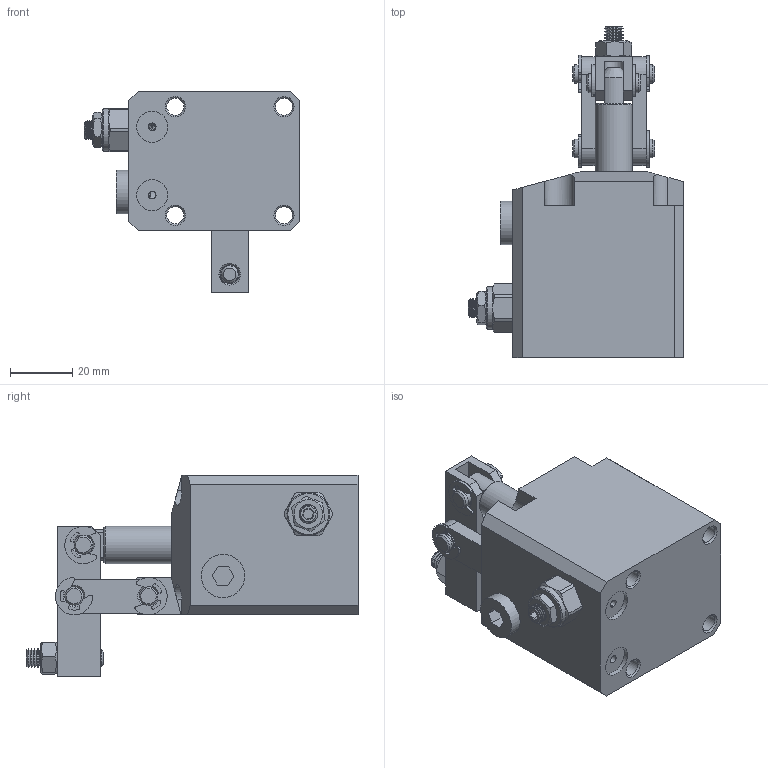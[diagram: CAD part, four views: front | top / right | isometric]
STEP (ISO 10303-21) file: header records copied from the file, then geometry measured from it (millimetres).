
FILE_DESCRIPTION(/* description */ ('STEP AP203'),/* implementation_level */ '2;1');
FILE_NAME(/* name */ 'D:\Vault_2016\Projekty\Clamptek\Hydraulic\CBLU\CBLU-25\STEP\CBLU-25CL.stp',/* time_stamp */ '2021-05-06T11:54:25+02:00',/* author */ ('user'),/* organization */ (''),/* preprocessor_version */ 'ST-DEVELOPER v18.1',/* originating_system */ 'Autodesk Inventor 2021',/* authorisation */ '');
FILE_SCHEMA (('AUTOMOTIVE_DESIGN { 1 0 10303 214 3 1 1 }'));
Products named in the file (12): CBLU-25CL; CL±¾Ìå_1_1; »îÈû¸Ë_1; Ñ¹±Û_1; Á¬¸Ë_1; hex nuts, style 1-grades ab gb_GB_FASTENER_NUT_SNAB1 M6-N_1; ³¤ÏúÖá_1; ¶ÌÏúÖá_1; socket set screw flat point_iso2_ISO 4026 - M6 x 4-S_1; ÄÚÁù½Ç¶ÂÍ·×
îÐÂ_1; CZL10µ÷ËÙ·§_1; e rings gb_GB_CONNECTING_PIECE_RINGS_HR 6_1
Assembly tree (19 placements, depth 2):
  CBLU-25CL
    CL±¾Ìå_1_1
    »îÈû¸Ë_1
    Ñ¹±Û_1
    Á¬¸Ë_1  x2
    hex nuts, style 1-grades ab gb_GB_FASTENER_NUT_SNAB1 M6-N_1
    e rings gb_GB_CONNECTING_PIECE_RINGS_HR 6_1  x7
    ³¤ÏúÖá_1  x2
    ¶ÌÏúÖá_1
    socket set screw flat point_iso2_ISO 4026 - M6 x 4-S_1
    ÄÚÁù½Ç¶ÂÍ·×
îÐÂ_1
    CZL10µ÷ËÙ·§_1
Bounding box: 69.3 x 107 x 65 mm (x, y, z)
Volume: 143139.4 mm3; surface area: 42895.8 mm2
Topology: 23 solids, 23 shells, 677 faces, 1770 edges, 1158 vertices
Faces by surface type: cylinder 266, plane 226, cone 124, bspline 47, torus 14
Full cylindrical faces by diameter (mm): 1 x6, 1.6 x1, 2 x2, 2.5 x1, 3.3 x1, 3.8 x1, 4.917 x5, 5 x8, 5.5 x4, 5.6 x1, 6 x81, 6.1 x1, 7 x1, 8 x1, 8.7 x1, 8.8 x1, 9 x3, 10 x2, 12 x2, 12.6 x1, 12.7 x1, 13.8 x1, 14 x1, 19.225 x1, 20 x1, 25 x2, 30 x1, 32 x1
Entity records: 39679 total; most frequent: CARTESIAN_POINT 26449, ORIENTED_EDGE 2776, DIRECTION 2590, EDGE_CURVE 1388, AXIS2_PLACEMENT_3D 999, VERTEX_POINT 907, EDGE_LOOP 607, LINE 592
